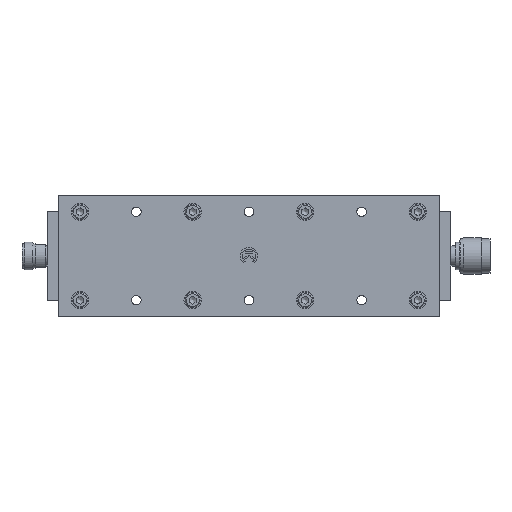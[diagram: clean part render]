
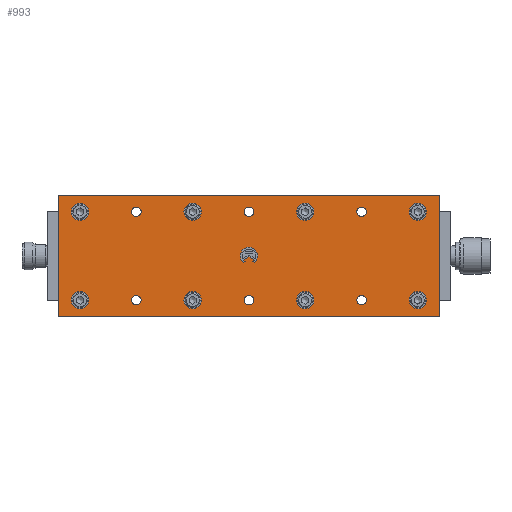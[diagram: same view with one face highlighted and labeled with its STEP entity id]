
A CAD part, top view. The second image highlights one B-rep face of the part: STEP entity #993.
In plain terms, the highlighted planar face has unit normal (0, 0, 1).
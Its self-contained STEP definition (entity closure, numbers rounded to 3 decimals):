
#993=ADVANCED_FACE('',(#2007,#2009,#2011,#2013,#2015,#2017,#2019,#2021,#2023,#2025,
#2027,#2029,#2031,#2033,#2035,#2037),#2039,.T.);
#2007=FACE_BOUND('',#2008,.T.);
#2008=EDGE_LOOP('',(#4113,#4114,#4115,#4116));
#2009=FACE_BOUND('',#2010,.T.);
#2010=EDGE_LOOP('',(#4117,#4118,#4119,#4120,#4121,#4122,#4123));
#2011=FACE_BOUND('',#2012,.T.);
#2012=EDGE_LOOP('',(#4124));
#2013=FACE_BOUND('',#2014,.T.);
#2014=EDGE_LOOP('',(#4125));
#2015=FACE_BOUND('',#2016,.T.);
#2016=EDGE_LOOP('',(#4126));
#2017=FACE_BOUND('',#2018,.T.);
#2018=EDGE_LOOP('',(#4127));
#2019=FACE_BOUND('',#2020,.T.);
#2020=EDGE_LOOP('',(#4128));
#2021=FACE_BOUND('',#2022,.T.);
#2022=EDGE_LOOP('',(#4129));
#2023=FACE_BOUND('',#2024,.T.);
#2024=EDGE_LOOP('',(#4130));
#2025=FACE_BOUND('',#2026,.T.);
#2026=EDGE_LOOP('',(#4131));
#2027=FACE_BOUND('',#2028,.T.);
#2028=EDGE_LOOP('',(#4132));
#2029=FACE_BOUND('',#2030,.T.);
#2030=EDGE_LOOP('',(#4133));
#2031=FACE_BOUND('',#2032,.T.);
#2032=EDGE_LOOP('',(#4134));
#2033=FACE_BOUND('',#2034,.T.);
#2034=EDGE_LOOP('',(#4135));
#2035=FACE_BOUND('',#2036,.T.);
#2036=EDGE_LOOP('',(#4136));
#2037=FACE_BOUND('',#2038,.T.);
#2038=EDGE_LOOP('',(#4137));
#2039=PLANE('',#2040);
#2040=AXIS2_PLACEMENT_3D('',#2041,#2042,#2043);
#2041=CARTESIAN_POINT('',(-35.,-110.,12.5));
#2042=DIRECTION('',(0.,0.,1.));
#2043=DIRECTION('',(1.,0.,0.));
#4113=ORIENTED_EDGE('',*,*,#4908,.F.);
#4114=ORIENTED_EDGE('',*,*,#4909,.T.);
#4115=ORIENTED_EDGE('',*,*,#4910,.T.);
#4116=ORIENTED_EDGE('',*,*,#4911,.F.);
#4117=ORIENTED_EDGE('',*,*,#4912,.T.);
#4118=ORIENTED_EDGE('',*,*,#4913,.T.);
#4119=ORIENTED_EDGE('',*,*,#4914,.T.);
#4120=ORIENTED_EDGE('',*,*,#4915,.T.);
#4121=ORIENTED_EDGE('',*,*,#4916,.T.);
#4122=ORIENTED_EDGE('',*,*,#4917,.T.);
#4123=ORIENTED_EDGE('',*,*,#4918,.T.);
#4124=ORIENTED_EDGE('',*,*,#4919,.T.);
#4125=ORIENTED_EDGE('',*,*,#4920,.T.);
#4126=ORIENTED_EDGE('',*,*,#4921,.T.);
#4127=ORIENTED_EDGE('',*,*,#4922,.T.);
#4128=ORIENTED_EDGE('',*,*,#4923,.T.);
#4129=ORIENTED_EDGE('',*,*,#4924,.T.);
#4130=ORIENTED_EDGE('',*,*,#4925,.T.);
#4131=ORIENTED_EDGE('',*,*,#4926,.T.);
#4132=ORIENTED_EDGE('',*,*,#4927,.T.);
#4133=ORIENTED_EDGE('',*,*,#4928,.T.);
#4134=ORIENTED_EDGE('',*,*,#4929,.T.);
#4135=ORIENTED_EDGE('',*,*,#4930,.T.);
#4136=ORIENTED_EDGE('',*,*,#4931,.T.);
#4137=ORIENTED_EDGE('',*,*,#4932,.T.);
#4908=EDGE_CURVE('',#5459,#5460,#5461,.T.);
#4909=EDGE_CURVE('',#5459,#5462,#5463,.T.);
#4910=EDGE_CURVE('',#5462,#5464,#5465,.T.);
#4911=EDGE_CURVE('',#5460,#5464,#5466,.T.);
#4912=EDGE_CURVE('',#5467,#5468,#5469,.F.);
#4913=EDGE_CURVE('',#5468,#5470,#5471,.F.);
#4914=EDGE_CURVE('',#5470,#5472,#5473,.F.);
#4915=EDGE_CURVE('',#5472,#5474,#5475,.F.);
#4916=EDGE_CURVE('',#5474,#5476,#5477,.F.);
#4917=EDGE_CURVE('',#5476,#5478,#5479,.F.);
#4918=EDGE_CURVE('',#5478,#5467,#5480,.F.);
#4919=EDGE_CURVE('',#5481,#5481,#5482,.F.);
#4920=EDGE_CURVE('',#5483,#5483,#5484,.F.);
#4921=EDGE_CURVE('',#5485,#5485,#5486,.F.);
#4922=EDGE_CURVE('',#5487,#5487,#5488,.F.);
#4923=EDGE_CURVE('',#5489,#5489,#5490,.F.);
#4924=EDGE_CURVE('',#5491,#5491,#5492,.F.);
#4925=EDGE_CURVE('',#5493,#5493,#5494,.F.);
#4926=EDGE_CURVE('',#5495,#5495,#5496,.F.);
#4927=EDGE_CURVE('',#5497,#5497,#5498,.F.);
#4928=EDGE_CURVE('',#5499,#5499,#5500,.F.);
#4929=EDGE_CURVE('',#5501,#5501,#5502,.F.);
#4930=EDGE_CURVE('',#5503,#5503,#5504,.F.);
#4931=EDGE_CURVE('',#5505,#5505,#5506,.F.);
#4932=EDGE_CURVE('',#5507,#5507,#5508,.F.);
#5459=VERTEX_POINT('',#6572);
#5460=VERTEX_POINT('',#6573);
#5461=LINE('',#6574,#6575);
#5462=VERTEX_POINT('',#6577);
#5463=LINE('',#6578,#6579);
#5464=VERTEX_POINT('',#6581);
#5465=LINE('',#6582,#6583);
#5466=LINE('',#6585,#6586);
#5467=VERTEX_POINT('',#6588);
#5468=VERTEX_POINT('',#6589);
#5469=CIRCLE('',#6590,4.);
#5470=VERTEX_POINT('',#6594);
#5471=LINE('',#6595,#6596);
#5472=VERTEX_POINT('',#6598);
#5473=CIRCLE('',#6599,5.);
#5474=VERTEX_POINT('',#6603);
#5475=LINE('',#6604,#6605);
#5476=VERTEX_POINT('',#6607);
#5477=CIRCLE('',#6608,4.);
#5478=VERTEX_POINT('',#6612);
#5479=LINE('',#6613,#6614);
#5480=LINE('',#6616,#6617);
#5481=VERTEX_POINT('',#6619);
#5482=CIRCLE('',#6620,5.);
#5483=VERTEX_POINT('',#6624);
#5484=CIRCLE('',#6625,5.);
#5485=VERTEX_POINT('',#6629);
#5486=CIRCLE('',#6630,5.);
#5487=VERTEX_POINT('',#6634);
#5488=CIRCLE('',#6635,5.);
#5489=VERTEX_POINT('',#6639);
#5490=CIRCLE('',#6640,5.);
#5491=VERTEX_POINT('',#6644);
#5492=CIRCLE('',#6645,5.);
#5493=VERTEX_POINT('',#6649);
#5494=CIRCLE('',#6650,5.);
#5495=VERTEX_POINT('',#6654);
#5496=CIRCLE('',#6655,5.);
#5497=VERTEX_POINT('',#6659);
#5498=CIRCLE('',#6660,2.75);
#5499=VERTEX_POINT('',#6664);
#5500=CIRCLE('',#6665,2.75);
#5501=VERTEX_POINT('',#6669);
#5502=CIRCLE('',#6670,2.75);
#5503=VERTEX_POINT('',#6674);
#5504=CIRCLE('',#6675,2.75);
#5505=VERTEX_POINT('',#6679);
#5506=CIRCLE('',#6680,2.75);
#5507=VERTEX_POINT('',#6684);
#5508=CIRCLE('',#6685,2.75);
#6572=CARTESIAN_POINT('',(-34.9,-109.9,12.5));
#6573=CARTESIAN_POINT('',(-34.9,109.9,12.5));
#6574=CARTESIAN_POINT('',(-34.9,-109.9,12.5));
#6575=VECTOR('',#6576,1.);
#6576=DIRECTION('',(0.,1.,0.));
#6577=CARTESIAN_POINT('',(34.9,-109.9,12.5));
#6578=CARTESIAN_POINT('',(-34.9,-109.9,12.5));
#6579=VECTOR('',#6580,1.);
#6580=DIRECTION('',(1.,0.,0.));
#6581=CARTESIAN_POINT('',(34.9,109.9,12.5));
#6582=CARTESIAN_POINT('',(34.9,-109.9,12.5));
#6583=VECTOR('',#6584,1.);
#6584=DIRECTION('',(0.,1.,0.));
#6585=CARTESIAN_POINT('',(-34.9,109.9,12.5));
#6586=VECTOR('',#6587,1.);
#6587=DIRECTION('',(1.,0.,0.));
#6588=CARTESIAN_POINT('',(-2.417,3.187,12.5));
#6589=CARTESIAN_POINT('',(-3.345,2.194,12.5));
#6590=AXIS2_PLACEMENT_3D('',#6591,#6592,#6593);
#6591=CARTESIAN_POINT('',(0.,0.,12.5));
#6592=DIRECTION('',(0.,0.,-1.));
#6593=DIRECTION('',(-0.836,0.548,0.));
#6594=CARTESIAN_POINT('',(-3.891,3.14,12.5));
#6595=CARTESIAN_POINT('',(-3.891,3.14,12.5));
#6596=VECTOR('',#6597,1.);
#6597=DIRECTION('',(0.5,-0.866,0.));
#6598=CARTESIAN_POINT('',(-3.891,-3.14,12.5));
#6599=AXIS2_PLACEMENT_3D('',#6600,#6601,#6602);
#6600=CARTESIAN_POINT('',(0.,0.,12.5));
#6601=DIRECTION('',(0.,0.,1.));
#6602=DIRECTION('',(-0.778,-0.628,0.));
#6603=CARTESIAN_POINT('',(-3.345,-2.194,12.5));
#6604=CARTESIAN_POINT('',(-3.345,-2.194,12.5));
#6605=VECTOR('',#6606,1.);
#6606=DIRECTION('',(-0.5,-0.866,0.));
#6607=CARTESIAN_POINT('',(-2.417,-3.187,12.5));
#6608=AXIS2_PLACEMENT_3D('',#6609,#6610,#6611);
#6609=CARTESIAN_POINT('',(0.,0.,12.5));
#6610=DIRECTION('',(0.,0.,-1.));
#6611=DIRECTION('',(-0.604,-0.797,0.));
#6612=CARTESIAN_POINT('',(-0.577,0.,12.5));
#6613=CARTESIAN_POINT('',(-0.577,0.,12.5));
#6614=VECTOR('',#6615,1.);
#6615=DIRECTION('',(-0.5,-0.866,0.));
#6616=CARTESIAN_POINT('',(-2.417,3.187,12.5));
#6617=VECTOR('',#6618,1.);
#6618=DIRECTION('',(0.5,-0.866,0.));
#6619=CARTESIAN_POINT('',(20.5,-97.5,12.5));
#6620=AXIS2_PLACEMENT_3D('',#6621,#6622,#6623);
#6621=CARTESIAN_POINT('',(25.5,-97.5,12.5));
#6622=DIRECTION('',(0.,0.,1.));
#6623=DIRECTION('',(-1.,0.,0.));
#6624=CARTESIAN_POINT('',(-30.5,-97.5,12.5));
#6625=AXIS2_PLACEMENT_3D('',#6626,#6627,#6628);
#6626=CARTESIAN_POINT('',(-25.5,-97.5,12.5));
#6627=DIRECTION('',(0.,0.,1.));
#6628=DIRECTION('',(-1.,0.,0.));
#6629=CARTESIAN_POINT('',(-30.5,-32.5,12.5));
#6630=AXIS2_PLACEMENT_3D('',#6631,#6632,#6633);
#6631=CARTESIAN_POINT('',(-25.5,-32.5,12.5));
#6632=DIRECTION('',(0.,0.,1.));
#6633=DIRECTION('',(-1.,0.,0.));
#6634=CARTESIAN_POINT('',(20.5,-32.5,12.5));
#6635=AXIS2_PLACEMENT_3D('',#6636,#6637,#6638);
#6636=CARTESIAN_POINT('',(25.5,-32.5,12.5));
#6637=DIRECTION('',(0.,0.,1.));
#6638=DIRECTION('',(-1.,0.,0.));
#6639=CARTESIAN_POINT('',(-30.5,32.5,12.5));
#6640=AXIS2_PLACEMENT_3D('',#6641,#6642,#6643);
#6641=CARTESIAN_POINT('',(-25.5,32.5,12.5));
#6642=DIRECTION('',(0.,0.,1.));
#6643=DIRECTION('',(-1.,0.,0.));
#6644=CARTESIAN_POINT('',(20.5,32.5,12.5));
#6645=AXIS2_PLACEMENT_3D('',#6646,#6647,#6648);
#6646=CARTESIAN_POINT('',(25.5,32.5,12.5));
#6647=DIRECTION('',(0.,0.,1.));
#6648=DIRECTION('',(-1.,0.,0.));
#6649=CARTESIAN_POINT('',(20.5,97.5,12.5));
#6650=AXIS2_PLACEMENT_3D('',#6651,#6652,#6653);
#6651=CARTESIAN_POINT('',(25.5,97.5,12.5));
#6652=DIRECTION('',(0.,0.,1.));
#6653=DIRECTION('',(-1.,0.,0.));
#6654=CARTESIAN_POINT('',(-30.5,97.5,12.5));
#6655=AXIS2_PLACEMENT_3D('',#6656,#6657,#6658);
#6656=CARTESIAN_POINT('',(-25.5,97.5,12.5));
#6657=DIRECTION('',(0.,0.,1.));
#6658=DIRECTION('',(-1.,0.,0.));
#6659=CARTESIAN_POINT('',(-28.25,65.,12.5));
#6660=AXIS2_PLACEMENT_3D('',#6661,#6662,#6663);
#6661=CARTESIAN_POINT('',(-25.5,65.,12.5));
#6662=DIRECTION('',(0.,0.,1.));
#6663=DIRECTION('',(-1.,0.,0.));
#6664=CARTESIAN_POINT('',(22.75,65.,12.5));
#6665=AXIS2_PLACEMENT_3D('',#6666,#6667,#6668);
#6666=CARTESIAN_POINT('',(25.5,65.,12.5));
#6667=DIRECTION('',(0.,0.,1.));
#6668=DIRECTION('',(-1.,0.,0.));
#6669=CARTESIAN_POINT('',(-28.25,0.,12.5));
#6670=AXIS2_PLACEMENT_3D('',#6671,#6672,#6673);
#6671=CARTESIAN_POINT('',(-25.5,0.,12.5));
#6672=DIRECTION('',(0.,0.,1.));
#6673=DIRECTION('',(-1.,0.,0.));
#6674=CARTESIAN_POINT('',(22.75,0.,12.5));
#6675=AXIS2_PLACEMENT_3D('',#6676,#6677,#6678);
#6676=CARTESIAN_POINT('',(25.5,0.,12.5));
#6677=DIRECTION('',(0.,0.,1.));
#6678=DIRECTION('',(-1.,0.,0.));
#6679=CARTESIAN_POINT('',(-28.25,-65.,12.5));
#6680=AXIS2_PLACEMENT_3D('',#6681,#6682,#6683);
#6681=CARTESIAN_POINT('',(-25.5,-65.,12.5));
#6682=DIRECTION('',(0.,0.,1.));
#6683=DIRECTION('',(-1.,0.,0.));
#6684=CARTESIAN_POINT('',(22.75,-65.,12.5));
#6685=AXIS2_PLACEMENT_3D('',#6686,#6687,#6688);
#6686=CARTESIAN_POINT('',(25.5,-65.,12.5));
#6687=DIRECTION('',(0.,0.,1.));
#6688=DIRECTION('',(-1.,0.,0.));
